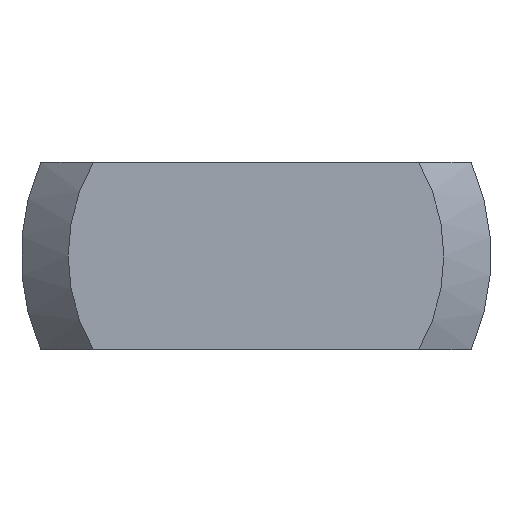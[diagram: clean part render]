
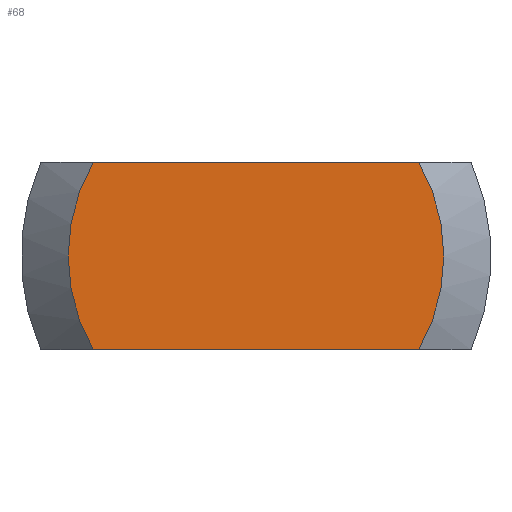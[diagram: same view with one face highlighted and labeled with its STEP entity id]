
A CAD part, front view. The second image highlights one B-rep face of the part: STEP entity #68.
In plain terms, the highlighted planar face has unit normal (0, -1, 0).
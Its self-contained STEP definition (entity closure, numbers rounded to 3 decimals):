
#68 = ADVANCED_FACE( '', ( #141 ), #142, .F. );
#141 = FACE_OUTER_BOUND( '', #303, .T. );
#142 = PLANE( '', #304 );
#303 = EDGE_LOOP( '', ( #490, #491, #492, #493 ) );
#304 = AXIS2_PLACEMENT_3D( '', #494, #495, #496 );
#490 = ORIENTED_EDGE( '', *, *, #630, .T. );
#491 = ORIENTED_EDGE( '', *, *, #631, .T. );
#492 = ORIENTED_EDGE( '', *, *, #632, .F. );
#493 = ORIENTED_EDGE( '', *, *, #623, .T. );
#494 = CARTESIAN_POINT( '', ( -10., -10., 8. ) );
#495 = DIRECTION( '', ( 0., 1., 0. ) );
#496 = DIRECTION( '', ( -1., 0., 0. ) );
#623 = EDGE_CURVE( '', #710, #707, #711, .F. );
#630 = EDGE_CURVE( '', #707, #721, #722, .T. );
#631 = EDGE_CURVE( '', #721, #723, #724, .F. );
#632 = EDGE_CURVE( '', #710, #723, #725, .T. );
#707 = VERTEX_POINT( '', #898 );
#710 = VERTEX_POINT( '', #904 );
#711 = CIRCLE( '', #905, 8. );
#721 = VERTEX_POINT( '', #918 );
#722 = LINE( '', #919, #920 );
#723 = VERTEX_POINT( '', #921 );
#724 = CIRCLE( '', #922, 8. );
#725 = LINE( '', #923, #924 );
#898 = CARTESIAN_POINT( '', ( -6.928, -10., 0. ) );
#904 = CARTESIAN_POINT( '', ( -6.928, -10., 8. ) );
#905 = AXIS2_PLACEMENT_3D( '', #1113, #1114, #1115 );
#918 = CARTESIAN_POINT( '', ( 6.928, -10., 0. ) );
#919 = CARTESIAN_POINT( '', ( -10., -10., 0. ) );
#920 = VECTOR( '', #1125, 1000. );
#921 = CARTESIAN_POINT( '', ( 6.928, -10., 8. ) );
#922 = AXIS2_PLACEMENT_3D( '', #1126, #1127, #1128 );
#923 = CARTESIAN_POINT( '', ( -10., -10., 8. ) );
#924 = VECTOR( '', #1129, 1000. );
#1113 = CARTESIAN_POINT( '', ( 0., -10., 4. ) );
#1114 = DIRECTION( '', ( 0., 1., 0. ) );
#1115 = DIRECTION( '', ( -1., 0., 0. ) );
#1125 = DIRECTION( '', ( 1., 0., 0. ) );
#1126 = CARTESIAN_POINT( '', ( 0., -10., 4. ) );
#1127 = DIRECTION( '', ( 0., 1., 0. ) );
#1128 = DIRECTION( '', ( -1., 0., 0. ) );
#1129 = DIRECTION( '', ( 1., 0., 0. ) );
